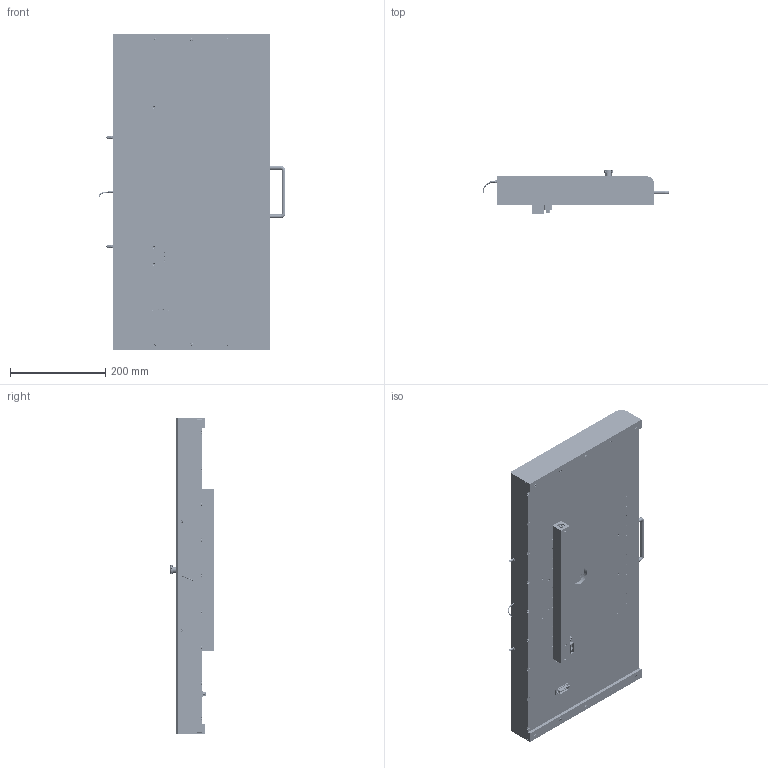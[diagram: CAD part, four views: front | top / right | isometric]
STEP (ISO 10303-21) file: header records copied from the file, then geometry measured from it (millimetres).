
FILE_DESCRIPTION (( 'STEP AP214' ), '1' );
FILE_NAME ('Ti-2500 - HUMIDITY CHAMBER ASSM (CATALOG MODEL).STEP', '2025-11-10T20:40:29', ( '' ), ( '' ), 'SwSTEP 2.0', 'SolidWorks 2025', '' );
FILE_SCHEMA (( 'AUTOMOTIVE_DESIGN' ));
Length unit declared in the file: inch
Products named in the file (1): Ti-2500 - HUMIDITY CHAMBER ASSM (CATALOG MODEL)
Bounding box: 391.88 x 91.4 x 662.64 mm (x, y, z)
Volume: 4460642.5 mm3; surface area: 1783763.9 mm2
Topology: 108 solids, 108 shells, 11186 faces, 27972 edges, 17271 vertices
Faces by surface type: cylinder 5850, plane 4252, cone 828, bspline 201, torus 44, sphere 11
Entity records: 509601 total; most frequent: CARTESIAN_POINT 174781, ORIENTED_EDGE 55648, DIRECTION 43441, EDGE_CURVE 27824, VERTEX_POINT 17270, AXIS2_PLACEMENT_3D 16308, EDGE_LOOP 12312, FACE_OUTER_BOUND 11186
